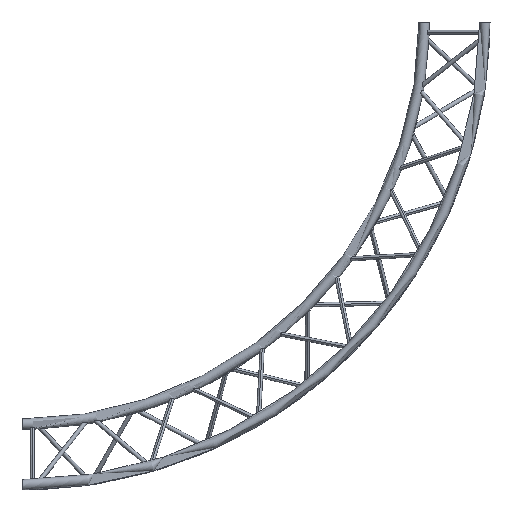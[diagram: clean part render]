
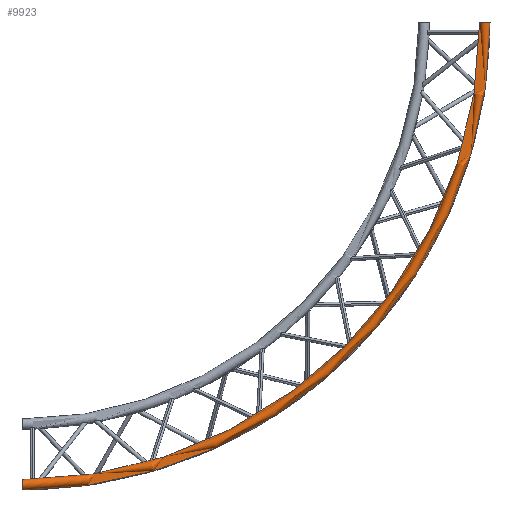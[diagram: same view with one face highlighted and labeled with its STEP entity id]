
A CAD part, front view. The second image highlights one B-rep face of the part: STEP entity #9923.
In plain terms, the highlighted toroidal (fillet/blend) face has major radius 2225 mm and minor radius 25 mm.
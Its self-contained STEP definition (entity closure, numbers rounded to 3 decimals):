
#763 = CARTESIAN_POINT ( 'NONE',  ( 2200., -168.5, 0. ) ) ;
#1409 = CARTESIAN_POINT ( 'NONE',  ( 2225., -168.5, 0. ) ) ;
#1410 = DIRECTION ( 'NONE',  ( 0., 0., -1. ) ) ;
#1411 = DIRECTION ( 'NONE',  ( 0., -1., 0. ) ) ;
#1412 = CARTESIAN_POINT ( 'NONE',  ( 0., -168.5, 0. ) ) ;
#1413 = AXIS2_PLACEMENT_3D ( 'NONE', #1412, #1411, #1410 ) ;
#1414 = CIRCLE ( 'NONE', #1413, 2200. ) ;
#1427 = DIRECTION ( 'NONE',  ( 1., 0., 0. ) ) ;
#1428 = DIRECTION ( 'NONE',  ( 0., 0., 1. ) ) ;
#1429 = AXIS2_PLACEMENT_3D ( 'NONE', #1409, #1428, #1427 ) ;
#1430 = CIRCLE ( 'NONE', #1429, 25. ) ;
#4638 = DIRECTION ( 'NONE',  ( 0., 0., -1. ) ) ;
#4639 = DIRECTION ( 'NONE',  ( 0., -1., 0. ) ) ;
#4640 = AXIS2_PLACEMENT_3D ( 'NONE', #4642, #4639, #4638 ) ;
#4642 = CARTESIAN_POINT ( 'NONE',  ( 0., -168.5, 0. ) ) ;
#4643 = TOROIDAL_SURFACE ( 'NONE', #4640, 2225., 25. ) ;
#4647 = FACE_OUTER_BOUND ( 'NONE', #9894, .T. ) ;
#4717 = DIRECTION ( 'NONE',  ( 0., 0., -1. ) ) ;
#4718 = DIRECTION ( 'NONE',  ( 0., -1., 0. ) ) ;
#4719 = CARTESIAN_POINT ( 'NONE',  ( 0., -168.5, 0. ) ) ;
#4720 = AXIS2_PLACEMENT_3D ( 'NONE', #4719, #4718, #4717 ) ;
#4721 = CIRCLE ( 'NONE', #4720, 2250. ) ;
#4724 = CARTESIAN_POINT ( 'NONE',  ( 2250., -168.5, 0. ) ) ;
#7516 = CARTESIAN_POINT ( 'NONE',  ( 0., -168.5, -2250. ) ) ;
#8016 = CIRCLE ( 'NONE', #8042, 25. ) ;
#8039 = DIRECTION ( 'NONE',  ( 0., 0., -1. ) ) ;
#8040 = DIRECTION ( 'NONE',  ( 1., 0., 0. ) ) ;
#8041 = CARTESIAN_POINT ( 'NONE',  ( 0., -168.5, -2225. ) ) ;
#8042 = AXIS2_PLACEMENT_3D ( 'NONE', #8041, #8040, #8039 ) ;
#8099 = CARTESIAN_POINT ( 'NONE',  ( 0., -168.5, -2200. ) ) ;
#9894 = EDGE_LOOP ( 'NONE', ( #10805, #10631, #9940, #11072 ) ) ;
#9923 = ADVANCED_FACE ( 'NONE', ( #4647 ), #4643, .T. ) ;
#9930 = VERTEX_POINT ( 'NONE', #4724 ) ;
#9937 = EDGE_CURVE ( 'NONE', #10763, #9930, #4721, .T. ) ;
#9940 = ORIENTED_EDGE ( 'NONE', *, *, #11095, .F. ) ;
#10631 = ORIENTED_EDGE ( 'NONE', *, *, #9937, .T. ) ;
#10763 = VERTEX_POINT ( 'NONE', #7516 ) ;
#10804 = EDGE_CURVE ( 'NONE', #10814, #10763, #8016, .T. ) ;
#10805 = ORIENTED_EDGE ( 'NONE', *, *, #10804, .T. ) ;
#10814 = VERTEX_POINT ( 'NONE', #8099 ) ;
#11034 = VERTEX_POINT ( 'NONE', #763 ) ;
#11072 = ORIENTED_EDGE ( 'NONE', *, *, #11087, .F. ) ;
#11087 = EDGE_CURVE ( 'NONE', #10814, #11034, #1414, .T. ) ;
#11095 = EDGE_CURVE ( 'NONE', #11034, #9930, #1430, .T. ) ;
